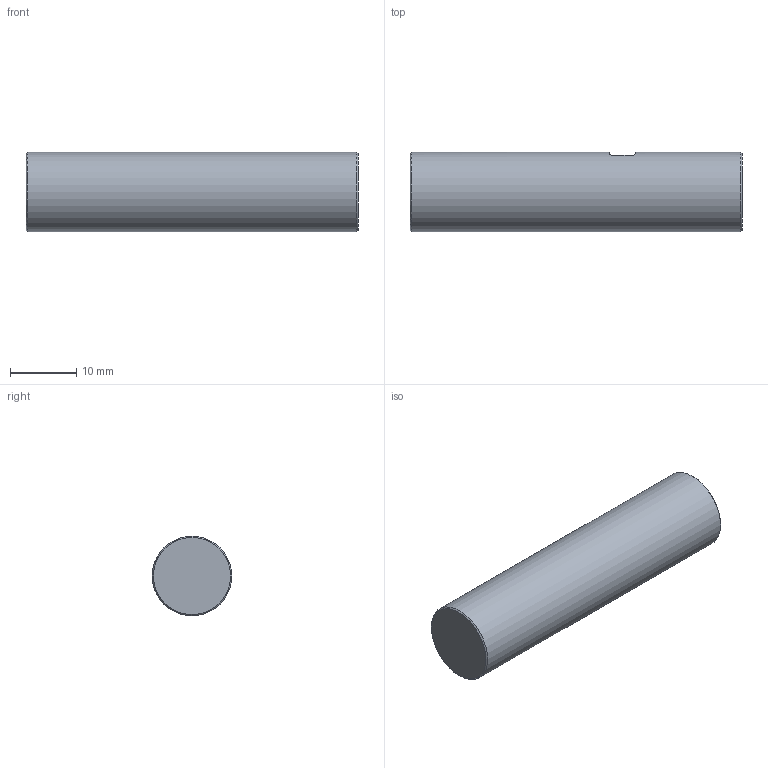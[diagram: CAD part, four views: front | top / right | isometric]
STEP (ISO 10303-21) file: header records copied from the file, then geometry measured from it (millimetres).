
FILE_DESCRIPTION(/* description */ (''),/* implementation_level */ '2;1');
FILE_NAME(/* name */ 'UF S-L050-D12-C12.stp',/* time_stamp */ '2026-03-04T21:44:38+02:00',/* author */ ('harel'),/* organization */ (''),/* preprocessor_version */ 'ST-DEVELOPER v20',/* originating_system */ 'Autodesk Inventor 2025',/* authorisation */ '');
FILE_SCHEMA (('AUTOMOTIVE_DESIGN { 1 0 10303 214 3 1 1 }'));
Length unit declared in the file: millimetre
Products named in the file (1): UF S-L045-D06-C06
Bounding box: 50 x 12 x 12 mm (x, y, z)
Volume: 5647.2 mm3; surface area: 2103.5 mm2
Topology: 1 solids, 1 shells, 10 faces, 19 edges, 12 vertices
Faces by surface type: plane 5, cylinder 3, cone 2
Full cylindrical faces by diameter (mm): 12 x1
Entity records: 332 total; most frequent: CARTESIAN_POINT 86, DIRECTION 43, ORIENTED_EDGE 38, EDGE_CURVE 19, AXIS2_PLACEMENT_3D 17, VERTEX_POINT 12, EDGE_LOOP 11, FACE_OUTER_BOUND 10
